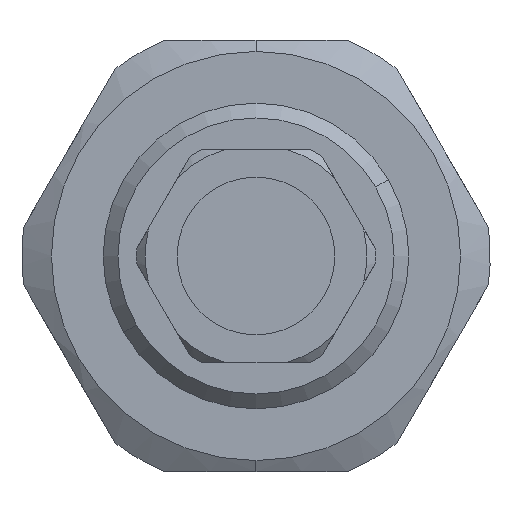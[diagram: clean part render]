
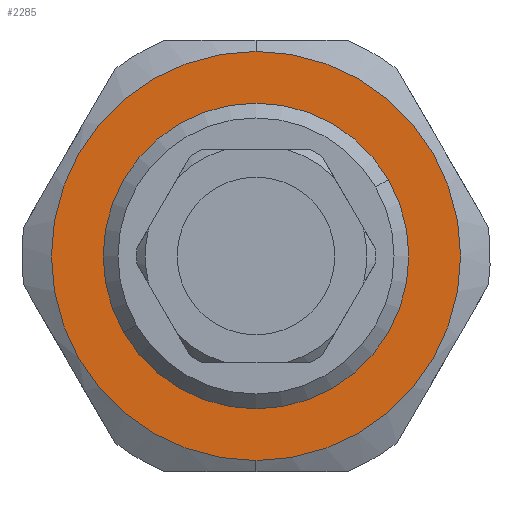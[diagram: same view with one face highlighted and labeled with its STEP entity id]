
A CAD part, left-side view. The second image highlights one B-rep face of the part: STEP entity #2285.
In plain terms, the highlighted planar face has unit normal (-1, 0, 0).
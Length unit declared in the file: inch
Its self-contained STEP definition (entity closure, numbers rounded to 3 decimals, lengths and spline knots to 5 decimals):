
#16 = DIRECTION ( 'NONE',  ( 0., 0., -1. ) ) ;
#18 = DIRECTION ( 'NONE',  ( 1., 0., 0. ) ) ;
#373 = CARTESIAN_POINT ( 'NONE',  ( 0.02244, 0.17561, 0.24559 ) ) ;
#387 = CARTESIAN_POINT ( 'NONE',  ( 0.02244, -0.09286, -0.01441 ) ) ;
#555 = AXIS2_PLACEMENT_3D ( 'NONE', #655, #18, #16 ) ;
#576 = AXIS2_PLACEMENT_3D ( 'NONE', #2798, #2764, #2768 ) ;
#595 = AXIS2_PLACEMENT_3D ( 'NONE', #1121, #1123, #1124 ) ;
#602 = AXIS2_PLACEMENT_3D ( 'NONE', #2140, #2151, #2204 ) ;
#609 = AXIS2_PLACEMENT_3D ( 'NONE', #2193, #2134, #2135 ) ;
#655 = CARTESIAN_POINT ( 'NONE',  ( 0.02244, 0.17561, -0.16941 ) ) ;
#1121 = CARTESIAN_POINT ( 'NONE',  ( 0.02244, 0.17561, -0.16941 ) ) ;
#1123 = DIRECTION ( 'NONE',  ( 1., 0., 0. ) ) ;
#1124 = DIRECTION ( 'NONE',  ( 0., 0., -1. ) ) ;
#1261 = CARTESIAN_POINT ( 'NONE',  ( 0.02244, 0.17561, -0.58441 ) ) ;
#1295 = EDGE_CURVE ( 'NONE', #3039, #1438, #2674, .T. ) ;
#1379 = EDGE_LOOP ( 'NONE', ( #3615, #3619 ) ) ;
#1438 = VERTEX_POINT ( 'NONE', #2270 ) ;
#1461 = EDGE_LOOP ( 'NONE', ( #3578, #3664 ) ) ;
#1502 = CIRCLE ( 'NONE', #576, 0.415 ) ;
#1524 = CIRCLE ( 'NONE', #595, 0.31 ) ;
#1570 = VERTEX_POINT ( 'NONE', #1261 ) ;
#1738 = EDGE_CURVE ( 'NONE', #3023, #1570, #1502, .T. ) ;
#1776 = EDGE_CURVE ( 'NONE', #1438, #3039, #1524, .T. ) ;
#1789 = FACE_BOUND ( 'NONE', #1379, .T. ) ;
#2119 = EDGE_CURVE ( 'NONE', #1570, #3023, #2359, .T. ) ;
#2134 = DIRECTION ( 'NONE',  ( 1., 0., 0. ) ) ;
#2135 = DIRECTION ( 'NONE',  ( 0., 0., -1. ) ) ;
#2137 = PLANE ( 'NONE',  #609 ) ;
#2140 = CARTESIAN_POINT ( 'NONE',  ( 0.02244, 0.17561, -0.16941 ) ) ;
#2151 = DIRECTION ( 'NONE',  ( -1., 0., 0. ) ) ;
#2193 = CARTESIAN_POINT ( 'NONE',  ( 0.02244, 0.17561, -0.16941 ) ) ;
#2204 = DIRECTION ( 'NONE',  ( 0., 0., 1. ) ) ;
#2270 = CARTESIAN_POINT ( 'NONE',  ( 0.02244, 0.44408, -0.32441 ) ) ;
#2285 = ADVANCED_FACE ( 'NONE', ( #2389, #1789 ), #2137, .F. ) ;
#2359 = CIRCLE ( 'NONE', #602, 0.415 ) ;
#2389 = FACE_OUTER_BOUND ( 'NONE', #1461, .T. ) ;
#2674 = CIRCLE ( 'NONE', #555, 0.31 ) ;
#2764 = DIRECTION ( 'NONE',  ( -1., 0., 0. ) ) ;
#2768 = DIRECTION ( 'NONE',  ( 0., 0., 1. ) ) ;
#2798 = CARTESIAN_POINT ( 'NONE',  ( 0.02244, 0.17561, -0.16941 ) ) ;
#3023 = VERTEX_POINT ( 'NONE', #373 ) ;
#3039 = VERTEX_POINT ( 'NONE', #387 ) ;
#3578 = ORIENTED_EDGE ( 'NONE', *, *, #1738, .T. ) ;
#3615 = ORIENTED_EDGE ( 'NONE', *, *, #1295, .T. ) ;
#3619 = ORIENTED_EDGE ( 'NONE', *, *, #1776, .T. ) ;
#3664 = ORIENTED_EDGE ( 'NONE', *, *, #2119, .T. ) ;
